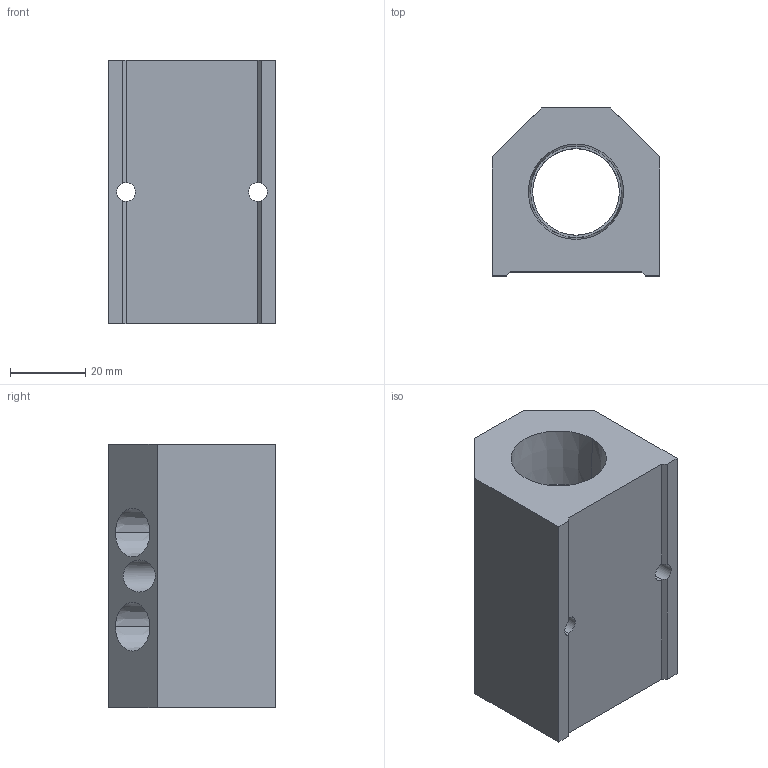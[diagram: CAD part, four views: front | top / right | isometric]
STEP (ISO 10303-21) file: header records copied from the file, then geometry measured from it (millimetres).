
FILE_DESCRIPTION (( 'STEP AP214' ), '1' );
FILE_NAME ('ALM2BD-N4N12-70R.step', '2022-02-06T14:05:58', ( '' ), ( '' ), 'SwSTEP 2.0', 'SolidWorks 2020', '' );
FILE_SCHEMA (( 'AUTOMOTIVE_DESIGN' ));
Length unit declared in the file: millimetre
Products named in the file (1): ALM2BD-N4N12-70R
Bounding box: 44.5 x 44.5 x 70 mm (x, y, z)
Volume: 85611.6 mm3; surface area: 21243 mm2
Topology: 1 solids, 1 shells, 282 faces, 750 edges, 496 vertices
Faces by surface type: plane 199, bspline 47, cone 20, cylinder 16
Entity records: 14903 total; most frequent: CARTESIAN_POINT 5636, ORIENTED_EDGE 1500, DIRECTION 1140, EDGE_CURVE 750, VECTOR 564, LINE 564, VERTEX_POINT 496, EDGE_LOOP 322
